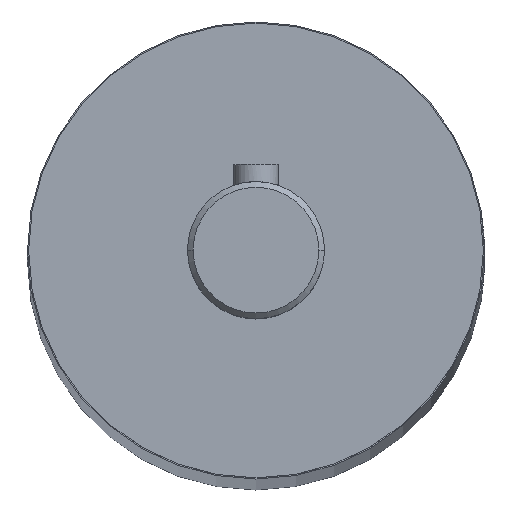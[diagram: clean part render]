
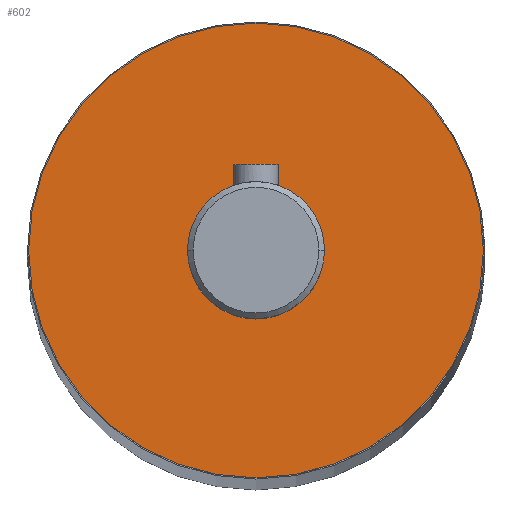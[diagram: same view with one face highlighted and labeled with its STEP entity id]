
A CAD part, top view. The second image highlights one B-rep face of the part: STEP entity #602.
In plain terms, the highlighted planar face has unit normal (0, 0, 1).
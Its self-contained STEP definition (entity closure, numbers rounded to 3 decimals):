
#11 = EDGE_CURVE ( 'NONE', #1871, #1089, #884, .T. ) ;
#115 = CARTESIAN_POINT ( 'NONE',  ( -19.9, 0., 277.5 ) ) ;
#117 = FACE_OUTER_BOUND ( 'NONE', #439, .T. ) ;
#134 = AXIS2_PLACEMENT_3D ( 'NONE', #1608, #1428, #858 ) ;
#162 = CARTESIAN_POINT ( 'NONE',  ( 6., 0., 277.5 ) ) ;
#186 = EDGE_CURVE ( 'NONE', #1089, #1871, #1717, .T. ) ;
#365 = AXIS2_PLACEMENT_3D ( 'NONE', #469, #1080, #1214 ) ;
#406 = CARTESIAN_POINT ( 'NONE',  ( 0., 0., 277.5 ) ) ;
#420 = DIRECTION ( 'NONE',  ( 1., 0., 0. ) ) ;
#439 = EDGE_LOOP ( 'NONE', ( #942, #1218 ) ) ;
#448 = EDGE_LOOP ( 'NONE', ( #1821, #509 ) ) ;
#469 = CARTESIAN_POINT ( 'NONE',  ( 0., 0., 277.5 ) ) ;
#497 = DIRECTION ( 'NONE',  ( 1., 0., 0. ) ) ;
#509 = ORIENTED_EDGE ( 'NONE', *, *, #186, .F. ) ;
#572 = AXIS2_PLACEMENT_3D ( 'NONE', #1135, #1272, #497 ) ;
#602 = ADVANCED_FACE ( 'NONE', ( #1163, #117 ), #1187, .T. ) ;
#858 = DIRECTION ( 'NONE',  ( 1., 0., 0. ) ) ;
#884 = CIRCLE ( 'NONE', #134, 6. ) ;
#907 = CARTESIAN_POINT ( 'NONE',  ( -6., 0., 277.5 ) ) ;
#914 = CARTESIAN_POINT ( 'NONE',  ( 0., 0., 277.5 ) ) ;
#942 = ORIENTED_EDGE ( 'NONE', *, *, #1533, .T. ) ;
#959 = CARTESIAN_POINT ( 'NONE',  ( 19.9, 0., 277.5 ) ) ;
#962 = CIRCLE ( 'NONE', #365, 19.9 ) ;
#1080 = DIRECTION ( 'NONE',  ( 0., 0., 1. ) ) ;
#1089 = VERTEX_POINT ( 'NONE', #162 ) ;
#1135 = CARTESIAN_POINT ( 'NONE',  ( 0., 0., 277.5 ) ) ;
#1163 = FACE_BOUND ( 'NONE', #448, .T. ) ;
#1187 = PLANE ( 'NONE',  #572 ) ;
#1214 = DIRECTION ( 'NONE',  ( 1., 0., 0. ) ) ;
#1218 = ORIENTED_EDGE ( 'NONE', *, *, #1584, .T. ) ;
#1272 = DIRECTION ( 'NONE',  ( 0., 0., 1. ) ) ;
#1335 = VERTEX_POINT ( 'NONE', #959 ) ;
#1337 = CIRCLE ( 'NONE', #1790, 19.9 ) ;
#1405 = DIRECTION ( 'NONE',  ( 1., 0., 0. ) ) ;
#1428 = DIRECTION ( 'NONE',  ( 0., 0., 1. ) ) ;
#1533 = EDGE_CURVE ( 'NONE', #1664, #1335, #962, .T. ) ;
#1554 = DIRECTION ( 'NONE',  ( 0., 0., 1. ) ) ;
#1584 = EDGE_CURVE ( 'NONE', #1335, #1664, #1337, .T. ) ;
#1608 = CARTESIAN_POINT ( 'NONE',  ( 0., 0., 277.5 ) ) ;
#1646 = DIRECTION ( 'NONE',  ( 0., 0., 1. ) ) ;
#1664 = VERTEX_POINT ( 'NONE', #115 ) ;
#1717 = CIRCLE ( 'NONE', #1905, 6. ) ;
#1790 = AXIS2_PLACEMENT_3D ( 'NONE', #914, #1554, #1405 ) ;
#1821 = ORIENTED_EDGE ( 'NONE', *, *, #11, .F. ) ;
#1871 = VERTEX_POINT ( 'NONE', #907 ) ;
#1905 = AXIS2_PLACEMENT_3D ( 'NONE', #406, #1646, #420 ) ;
